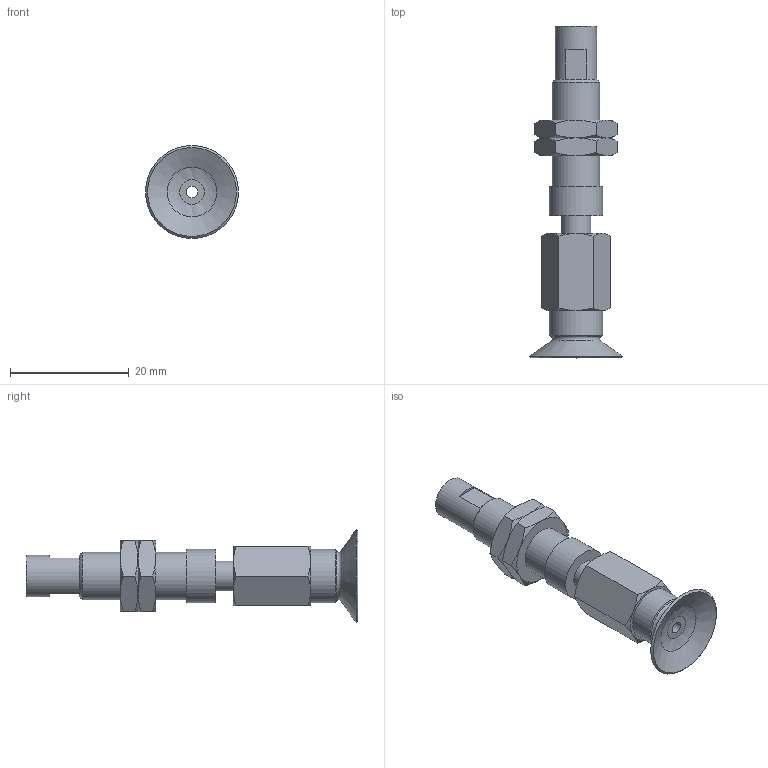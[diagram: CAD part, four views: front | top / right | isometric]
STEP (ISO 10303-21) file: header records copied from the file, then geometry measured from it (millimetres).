
FILE_DESCRIPTION(('STEP AP203'),'1');
FILE_NAME('.stp','2025-08-27T05:49:27',(' '),(' '),'Spatial InterOp 3D',' ',' ');
FILE_SCHEMA(('CONFIG_CONTROL_DESIGN'));
Length unit declared in the file: millimetre
Products named in the file (6): BNABPFTS-15A-3-※; ADAPTER; NAPATS-10A-3--M; Nut-15A-3-s; NAPFTS-15A-3-FBODY; BPFG-15A-※
Assembly tree (6 placements, depth 2):
  BNABPFTS-15A-3-※
    ADAPTER
    NAPATS-10A-3--M
    Nut-15A-3-s  x2
    NAPFTS-15A-3-FBODY
    BPFG-15A-※
Bounding box: 15.7 x 56 x 15.7 mm (x, y, z)
Volume: 3497.4 mm3; surface area: 4122 mm2
Topology: 6 solids, 6 shells, 113 faces, 234 edges, 140 vertices
Faces by surface type: cone 46, plane 41, cylinder 16, torus 9, bspline 1
Full cylindrical faces by diameter (mm): 2 x3, 4 x2, 4.134 x1, 5 x2, 6 x2, 7 x1, 7.188 x2, 8 x1, 9 x2
Entity records: 2667 total; most frequent: CARTESIAN_POINT 662, DIRECTION 364, ORIENTED_EDGE 290, AXIS2_PLACEMENT_3D 171, EDGE_CURVE 145, EDGE_LOOP 140, FACE_OUTER_BOUND 115, VERTEX_POINT 105
